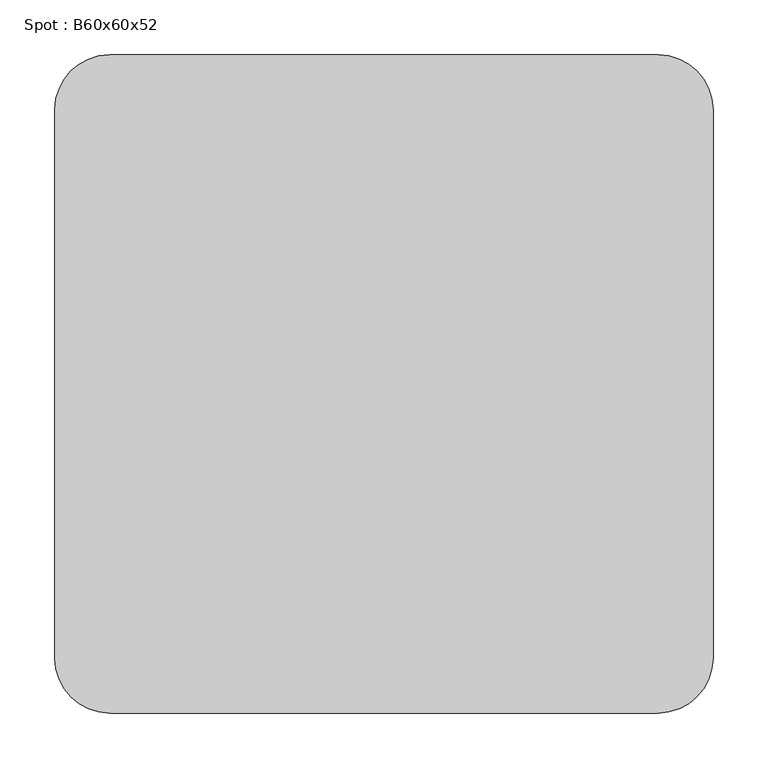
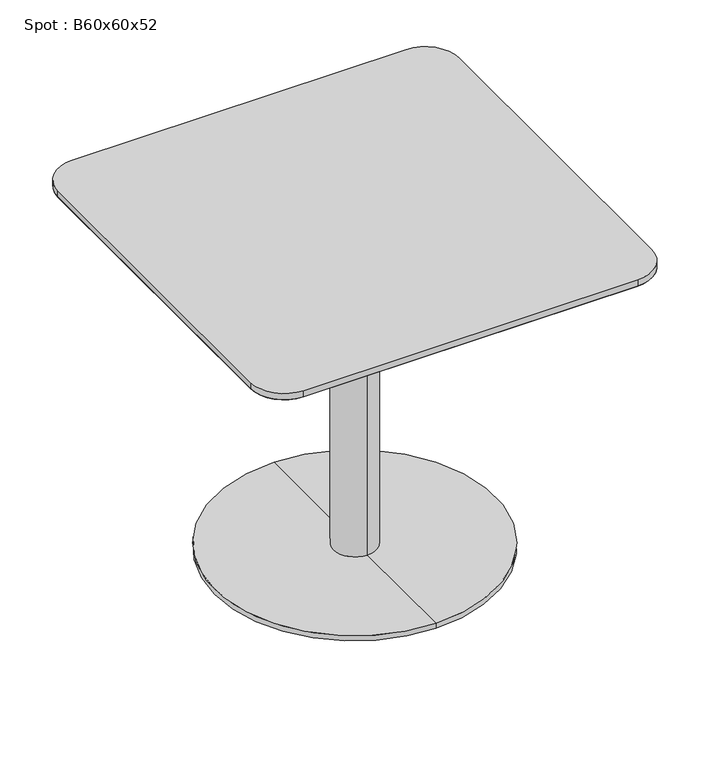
"""IFC4 building model written with IfcOpenShell, lengths in millimetres: furniture geometry, Spot : B60x60x52."""

from ifc_helpers import new_model, si_unit, point, frame, frame_2d, origin, place, context, project, spatial, polyline, circle_curve, trimmed, segment, composite_curve, outline, extrude, source, transform, mapped, element, save
from ifc_brep_helpers import plane_surface, cylinder_surface, revolved_surface, advanced_brep


def spot_b60x60x52_030b7b33(model_context):
    return source(origin(), model_context, "Body", "SolidModel", [
        advanced_brep(
        [(-250.0, -250.0, 498.0), (-250.0, 250.0, 498.0), (250.0, 250.0, 498.0), (250.0, -250.0, 498.0), (-300.0, -250.0, 510.0), (-250.0, -300.0, 510.0), (250.0, -300.0, 510.0), (300.0, -250.0, 510.0), (300.0, 250.0, 510.0), (250.0, 300.0, 510.0), (-250.0, 300.0, 510.0), (-300.0, 250.0, 510.0)],
        [
            (0, 1),
            (1, 2),
            (2, 3),
            (3, 0),
            (4, 5, circle_curve(frame((-250.0, -250.0, 510.0), z_axis=(0.0, 0.0, 1.0), x_axis=(0.0, -1.0, 0.0)), 50.0)),
            (5, 6),
            (6, 7, circle_curve(frame((250.0, -250.0, 510.0), z_axis=(0.0, 0.0, 1.0), x_axis=(1.0, 0.0, 0.0)), 50.0)),
            (7, 8),
            (8, 9, circle_curve(frame((250.0, 250.0, 510.0), z_axis=(0.0, 0.0, 1.0), x_axis=(0.0, 1.0, 0.0)), 50.0)),
            (9, 10),
            (10, 11, circle_curve(frame((-250.0, 250.0, 510.0), z_axis=(0.0, 0.0, 1.0), x_axis=(-1.0, 0.0, 0.0)), 50.0)),
            (11, 4),
            (4, 0),
            (0, 5),
            (3, 6),
            (3, 7),
            (2, 8),
            (2, 9),
            (1, 10),
            (1, 11),
        ],
        [
            plane_surface(frame((0.0, 0.0, 498.0), z_axis=(0.0, 0.0, -1.0), x_axis=(-1.0, 0.0, 0.0))),
            plane_surface(frame((0.0, 0.0, 510.0), z_axis=(0.0, 0.0, 1.0), x_axis=(-1.0, 0.0, 0.0))),
            revolved_surface(polyline([(-250.0, -250.0, 498.0), (-250.0, -300.0, 510.0)]), (-250.0, -250.0, 498.0), (0.0, 0.0, 1.0)),
            plane_surface(frame((0.0, -300.0, 510.0), z_axis=(0.0, -0.23337295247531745, -0.9723873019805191), x_axis=(-1.0, 0.0, 0.0))),
            revolved_surface(polyline([(250.0, -250.0, 498.0), (300.0, -250.0, 510.0)]), (250.0, -250.0, 498.0), (0.0, 0.0, 1.0)),
            plane_surface(frame((300.0, 0.0, 510.0), z_axis=(0.23337295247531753, 0.0, -0.9723873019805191), x_axis=(0.0, -1.0, 0.0))),
            revolved_surface(polyline([(250.0, 250.0, 498.0), (250.0, 300.0, 510.0)]), (250.0, 250.0, 498.0), (0.0, 0.0, 1.0)),
            plane_surface(frame((0.0, 300.0, 510.0), z_axis=(0.0, 0.23337295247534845, -0.9723873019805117), x_axis=(1.0, 0.0, 0.0))),
            revolved_surface(polyline([(-250.0, 250.0, 498.0), (-300.0, 250.0, 510.0)]), (-250.0, 250.0, 498.0), (0.0, 0.0, 1.0)),
            plane_surface(frame((-300.0, 0.0, 510.0), z_axis=(-0.2333729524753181, 0.0, -0.9723873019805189), x_axis=(0.0, 1.0, 0.0))),
        ],
        [
            (0, [[1, 2, 3, 4]]),
            (1, [[5, 6, 7, 8, 9, 10, 11, 12]]),
            (2, [[-5, 13, 14]]),
            (3, [[-6, -14, -4, 15]]),
            (4, [[-7, -15, 16]]),
            (5, [[-8, -16, -3, 17]]),
            (6, [[-9, -17, 18]]),
            (7, [[-10, -18, -2, 19]]),
            (8, [[-11, -19, 20]]),
            (9, [[-12, -20, -1, -13]]),
        ],
    ),
        extrude(outline(composite_curve([segment(trimmed(circle_curve(frame_2d((250.0, 250.0)), 50.0), [point((250.0, 300.0))], [point((300.0, 250.0))], False, "CARTESIAN"), True, "CONTINUOUS"), segment(polyline([(300.0, 250.0), (300.0, -250.0)]), True, "CONTINUOUS"), segment(trimmed(circle_curve(frame_2d((250.0, -250.0)), 50.0), [point((300.0, -250.0))], [point((250.0, -300.0))], False, "CARTESIAN"), True, "CONTINUOUS"), segment(polyline([(250.0, -300.0), (-250.0, -300.0)]), True, "CONTINUOUS"), segment(trimmed(circle_curve(frame_2d((-250.0, -250.0)), 50.0), [point((-250.0, -300.0))], [point((-300.0, -250.0))], False, "CARTESIAN"), True, "CONTINUOUS"), segment(polyline([(-300.0, -250.0), (-300.0, 250.0)]), True, "CONTINUOUS"), segment(trimmed(circle_curve(frame_2d((-250.0, 250.0)), 50.0), [point((-300.0, 250.0))], [point((-250.0, 300.0))], False, "CARTESIAN"), True, "CONTINUOUS"), segment(polyline([(-250.0, 300.0), (250.0, 300.0)]), True, "CONTINUOUS")], self_intersect=False)), frame((0.0, 0.0, 510.0), z_axis=(0.0, 0.0, 1.0), x_axis=(1.0, 0.0, 0.0)), (0.0, 0.0, 1.0), 10.0),
        advanced_brep(
        [(0.0, 32.0, 10.0), (0.0, -32.0, 10.0), (0.0, -32.0, 467.406916), (0.0, 32.0, 467.406916), (0.0, 210.0, 10.0), (0.0, -210.0, 10.0), (0.0, 210.0, 2.0), (0.0, -210.0, 2.0), (0.0, 0.0, 2.0), (0.0, 150.0, 498.0), (0.0, -150.0, 498.0), (0.0, 0.0, 498.0), (0.0, 150.0, 486.7213673), (0.0, -150.0, 486.7213673)],
        [
            (0, 1, circle_curve(frame((0.0, 0.0, 10.0), z_axis=(0.0, 0.0, 1.0), x_axis=(0.0, -1.0, 0.0)), 32.0)),
            (1, 2),
            (2, 3, circle_curve(frame((0.0, 0.0, 467.406916), z_axis=(0.0, 0.0, -1.0), x_axis=(0.0, -1.0, 0.0)), 32.0)),
            (3, 0),
            (1, 0, circle_curve(frame((0.0, 0.0, 10.0), z_axis=(0.0, 0.0, 1.0), x_axis=(0.0, -1.0, 0.0)), 32.0)),
            (3, 2, circle_curve(frame((0.0, 0.0, 467.406916), z_axis=(0.0, 0.0, -1.0), x_axis=(0.0, -1.0, 0.0)), 32.0)),
            (4, 5, circle_curve(frame((0.0, 0.0, 10.0), z_axis=(0.0, 0.0, 1.0), x_axis=(0.0, -1.0, 0.0)), 210.0)),
            (5, 1),
            (0, 4),
            (5, 4, circle_curve(frame((0.0, 0.0, 10.0), z_axis=(0.0, 0.0, 1.0), x_axis=(0.0, -1.0, 0.0)), 210.0)),
            (6, 7, circle_curve(frame((0.0, 0.0, 2.0), z_axis=(0.0, 0.0, 1.0), x_axis=(0.0, -1.0, 0.0)), 210.0)),
            (7, 5),
            (4, 6),
            (7, 6, circle_curve(frame((0.0, 0.0, 2.0), z_axis=(0.0, 0.0, 1.0), x_axis=(0.0, -1.0, 0.0)), 210.0)),
            (8, 7),
            (6, 8),
            (9, 10, circle_curve(frame((0.0, 0.0, 498.0), z_axis=(0.0, 0.0, 1.0), x_axis=(0.0, -1.0, 0.0)), 150.0)),
            (10, 11),
            (11, 9),
            (10, 9, circle_curve(frame((0.0, 0.0, 498.0), z_axis=(0.0, 0.0, 1.0), x_axis=(0.0, -1.0, 0.0)), 150.0)),
            (12, 13, circle_curve(frame((0.0, 0.0, 486.7213673), z_axis=(0.0, 0.0, 1.0), x_axis=(0.0, -1.0, 0.0)), 150.0)),
            (13, 10),
            (9, 12),
            (13, 12, circle_curve(frame((0.0, 0.0, 486.7213673), z_axis=(0.0, 0.0, 1.0), x_axis=(0.0, -1.0, 0.0)), 150.0)),
            (2, 13),
            (12, 3),
        ],
        [
            cylinder_surface(frame((0.0, 0.0, 860.0), z_axis=(0.0, 0.0, -1.0), x_axis=(0.0, -1.0, 0.0)), 32.0),
            plane_surface(frame((0.0, 0.0, 10.0), z_axis=(0.0, 0.0, 1.0), x_axis=(0.0, -1.0, 0.0))),
            cylinder_surface(frame((0.0, 0.0, 860.0), z_axis=(0.0, 0.0, -1.0), x_axis=(0.0, -1.0, 0.0)), 210.0),
            plane_surface(frame((0.0, 0.0, 2.0), z_axis=(0.0, 0.0, -1.0), x_axis=(0.0, -1.0, 0.0))),
            plane_surface(frame((0.0, 0.0, 498.0), z_axis=(0.0, 0.0, 1.0), x_axis=(0.0, -1.0, 0.0))),
            cylinder_surface(frame((0.0, 0.0, 860.0), z_axis=(0.0, 0.0, -1.0), x_axis=(0.0, -1.0, 0.0)), 150.0),
            revolved_surface(polyline([(0.0, -150.0, 486.7213673), (0.0, -32.0, 467.406916)]), (0.0, 0.0, 860.0), (0.0, 0.0, -1.0)),
        ],
        [
            (0, [[1, 2, 3, 4]]),
            (0, [[5, -4, 6, -2]]),
            (1, [[7, 8, -1, 9]]),
            (1, [[10, -9, -5, -8]]),
            (2, [[11, 12, -7, 13]]),
            (2, [[14, -13, -10, -12]]),
            (3, [[15, -11, 16]]),
            (3, [[-16, -14, -15]]),
            (4, [[17, 18, 19]]),
            (4, [[20, -19, -18]]),
            (5, [[21, 22, -17, 23]]),
            (5, [[24, -23, -20, -22]]),
            (6, [[-3, 25, -21, 26]]),
            (6, [[-6, -26, -24, -25]]),
        ],
    ),
    ])


if __name__ == "__main__":
    model = new_model("IFC4")
    model_context = context("Model", 3, world=origin())
    ifc_project = project(units=[si_unit("LENGTHUNIT", "METRE", prefix="MILLI")], contexts=[model_context])
    site = spatial("IfcSite", under=ifc_project)
    building = spatial("IfcBuilding", under=site)
    placement = place(None, origin())
    spot_b60x60x52_shape = spot_b60x60x52_030b7b33(model_context)
    element("IfcFurniture", 1, ObjectType="Spot : B60x60x52", at=placement, inside=building, context=model_context, shape_type="MappedRepresentation", body=[
        mapped(spot_b60x60x52_shape, transform((0.0, 0.0, 0.0), x_axis=(1.0, 0.0, 0.0), y_axis=(0.0, 1.0, 0.0), z_axis=(0.0, 0.0, 1.0))),
    ])
    save(model, "model.ifc")
